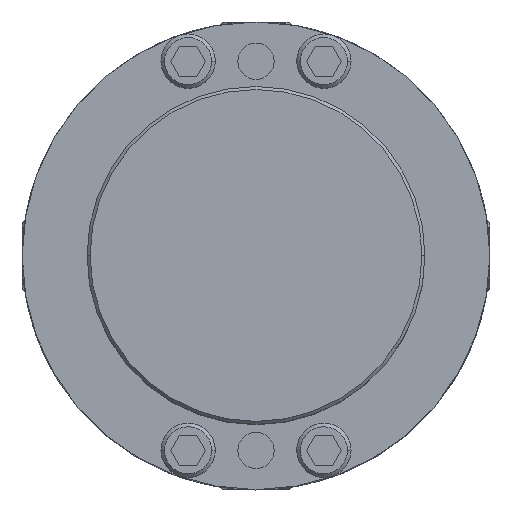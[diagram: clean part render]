
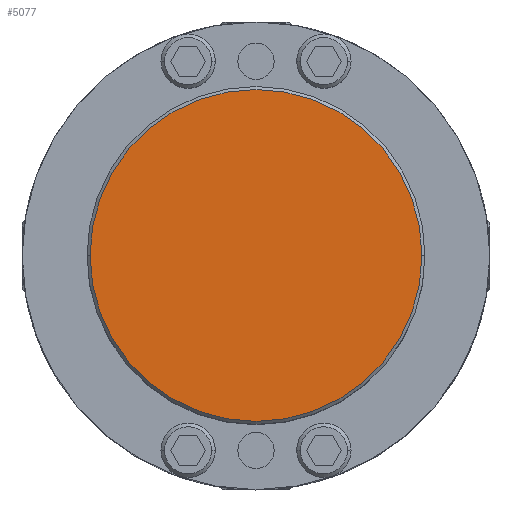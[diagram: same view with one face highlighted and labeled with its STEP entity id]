
A CAD part, top view. The second image highlights one B-rep face of the part: STEP entity #5077.
In plain terms, the highlighted planar face has unit normal (0, 0, 1).
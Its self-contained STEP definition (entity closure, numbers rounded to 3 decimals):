
#1327=CARTESIAN_POINT('',(55.,0.,100.));
#1328=VERTEX_POINT('',#1327);
#1335=CARTESIAN_POINT('',(-55.,0.,100.));
#1336=VERTEX_POINT('',#1335);
#1337=CARTESIAN_POINT('',(0.,0.,100.0));
#1338=DIRECTION('',(0.0,0.0,-1.0));
#1339=DIRECTION('',(1.0,0.0,0.0));
#1340=AXIS2_PLACEMENT_3D('',#1337,#1338,#1339);
#1341=CIRCLE('',#1340,55.0);
#1342=EDGE_CURVE('',#1328,#1336,#1341,.T.);
#5040=CARTESIAN_POINT('',(0.,0.,100.0));
#5041=DIRECTION('',(0.0,0.0,-1.0));
#5042=DIRECTION('',(1.0,0.0,0.0));
#5043=AXIS2_PLACEMENT_3D('',#5040,#5041,#5042);
#5044=CIRCLE('',#5043,55.0);
#5045=EDGE_CURVE('',#1336,#1328,#5044,.T.);
#5068=CARTESIAN_POINT('',(-5.091,0.,100.0));
#5069=DIRECTION('',(0.0,0.0,1.0));
#5070=DIRECTION('',(-1.0,0.0,0.0));
#5071=AXIS2_PLACEMENT_3D('',#5068,#5069,#5070);
#5072=PLANE('',#5071);
#5073=ORIENTED_EDGE('',*,*,#5045,.F.);
#5074=ORIENTED_EDGE('',*,*,#1342,.F.);
#5075=EDGE_LOOP('',(#5073,#5074));
#5076=FACE_OUTER_BOUND('',#5075,.T.);
#5077=ADVANCED_FACE('',(#5076),#5072,.T.);
